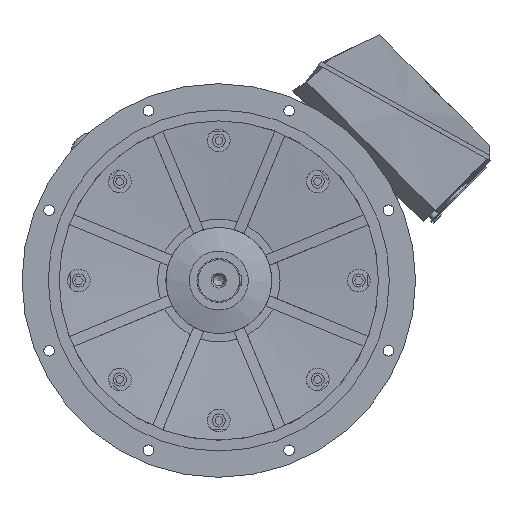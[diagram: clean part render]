
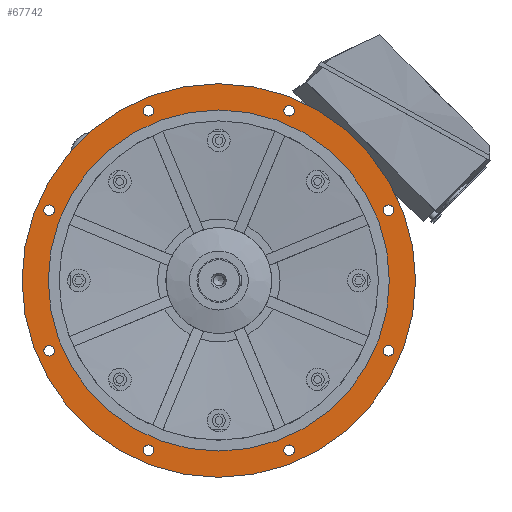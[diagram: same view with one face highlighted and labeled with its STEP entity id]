
A CAD part, left-side view. The second image highlights one B-rep face of the part: STEP entity #67742.
In plain terms, the highlighted planar face has unit normal (-1, 0, 0).
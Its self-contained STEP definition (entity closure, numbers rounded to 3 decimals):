
#3484 = CIRCLE ( 'NONE', #56229, 390. ) ;
#4067 = VERTEX_POINT ( 'NONE', #52187 ) ;
#4650 = DIRECTION ( 'NONE',  ( 1., 0., 0. ) ) ;
#5463 = EDGE_CURVE ( 'NONE', #59065, #59065, #57868, .T. ) ;
#5683 = CIRCLE ( 'NONE', #13074, 450. ) ;
#6493 = CARTESIAN_POINT ( 'NONE',  ( -110., 160.727, 388.029 ) ) ;
#6842 = FACE_BOUND ( 'NONE', #48393, .T. ) ;
#7747 = DIRECTION ( 'NONE',  ( 1., 0., 0. ) ) ;
#8507 = FACE_OUTER_BOUND ( 'NONE', #15671, .T. ) ;
#9044 = CARTESIAN_POINT ( 'NONE',  ( -110., 420., 0. ) ) ;
#9493 = DIRECTION ( 'NONE',  ( 1., 0., 0. ) ) ;
#11773 = EDGE_CURVE ( 'NONE', #13231, #13231, #41516, .T. ) ;
#11813 = ORIENTED_EDGE ( 'NONE', *, *, #22622, .T. ) ;
#11817 = DIRECTION ( 'NONE',  ( 0., 0., -1. ) ) ;
#11992 = AXIS2_PLACEMENT_3D ( 'NONE', #25350, #62642, #30716 ) ;
#13074 = AXIS2_PLACEMENT_3D ( 'NONE', #62194, #30268, #67498 ) ;
#13165 = VERTEX_POINT ( 'NONE', #20575 ) ;
#13231 = VERTEX_POINT ( 'NONE', #40363 ) ;
#13806 = CIRCLE ( 'NONE', #18616, 12. ) ;
#14360 = DIRECTION ( 'NONE',  ( 0., 0., 1. ) ) ;
#14520 = ORIENTED_EDGE ( 'NONE', *, *, #5463, .T. ) ;
#14630 = ORIENTED_EDGE ( 'NONE', *, *, #48477, .T. ) ;
#14991 = ORIENTED_EDGE ( 'NONE', *, *, #68871, .T. ) ;
#15030 = ORIENTED_EDGE ( 'NONE', *, *, #26359, .T. ) ;
#15671 = EDGE_LOOP ( 'NONE', ( #63406 ) ) ;
#16738 = CARTESIAN_POINT ( 'NONE',  ( -110., 388.029, 160.727 ) ) ;
#17056 = ORIENTED_EDGE ( 'NONE', *, *, #32306, .T. ) ;
#18616 = AXIS2_PLACEMENT_3D ( 'NONE', #41331, #9493, #46667 ) ;
#19403 = CIRCLE ( 'NONE', #11992, 12. ) ;
#20569 = AXIS2_PLACEMENT_3D ( 'NONE', #39592, #7747, #44898 ) ;
#20573 = DIRECTION ( 'NONE',  ( 1., 0., 0. ) ) ;
#20575 = CARTESIAN_POINT ( 'NONE',  ( -110., 160.727, 376.029 ) ) ;
#20699 = VERTEX_POINT ( 'NONE', #56681 ) ;
#20956 = FACE_BOUND ( 'NONE', #67453, .T. ) ;
#21055 = CARTESIAN_POINT ( 'NONE',  ( -110., -160.727, -388.029 ) ) ;
#21501 = VERTEX_POINT ( 'NONE', #57366 ) ;
#22081 = DIRECTION ( 'NONE',  ( 0., 0., -1. ) ) ;
#22622 = EDGE_CURVE ( 'NONE', #20699, #20699, #3484, .T. ) ;
#22631 = FACE_BOUND ( 'NONE', #65193, .T. ) ;
#24462 = AXIS2_PLACEMENT_3D ( 'NONE', #6493, #43640, #11817 ) ;
#24605 = EDGE_LOOP ( 'NONE', ( #14630 ) ) ;
#25013 = CARTESIAN_POINT ( 'NONE',  ( -110., 160.727, -400.029 ) ) ;
#25350 = CARTESIAN_POINT ( 'NONE',  ( -110., -388.029, -160.727 ) ) ;
#26359 = EDGE_CURVE ( 'NONE', #47303, #47303, #57958, .T. ) ;
#26384 = DIRECTION ( 'NONE',  ( 0., 0., -1. ) ) ;
#27233 = DIRECTION ( 'NONE',  ( 1., 0., 0. ) ) ;
#28823 = EDGE_LOOP ( 'NONE', ( #15030 ) ) ;
#29834 = VERTEX_POINT ( 'NONE', #25013 ) ;
#30139 = CARTESIAN_POINT ( 'NONE',  ( -110., 388.029, -172.727 ) ) ;
#30144 = EDGE_LOOP ( 'NONE', ( #14991 ) ) ;
#30268 = DIRECTION ( 'NONE',  ( 1., 0., 0. ) ) ;
#30716 = DIRECTION ( 'NONE',  ( 0., 0., -1. ) ) ;
#31246 = EDGE_LOOP ( 'NONE', ( #52606 ) ) ;
#32212 = AXIS2_PLACEMENT_3D ( 'NONE', #21055, #58310, #26384 ) ;
#32306 = EDGE_CURVE ( 'NONE', #29834, #29834, #13806, .T. ) ;
#33259 = CIRCLE ( 'NONE', #24462, 12. ) ;
#35114 = FACE_BOUND ( 'NONE', #28823, .T. ) ;
#36412 = CARTESIAN_POINT ( 'NONE',  ( -110., 388.029, 148.727 ) ) ;
#36490 = CARTESIAN_POINT ( 'NONE',  ( -110., 388.029, -160.727 ) ) ;
#37318 = VERTEX_POINT ( 'NONE', #41289 ) ;
#39592 = CARTESIAN_POINT ( 'NONE',  ( -110., -160.727, 388.029 ) ) ;
#40137 = CARTESIAN_POINT ( 'NONE',  ( -110., -160.727, 376.029 ) ) ;
#40363 = CARTESIAN_POINT ( 'NONE',  ( -110., -160.727, -400.029 ) ) ;
#41289 = CARTESIAN_POINT ( 'NONE',  ( -110., -388.029, -172.727 ) ) ;
#41331 = CARTESIAN_POINT ( 'NONE',  ( -110., 160.727, -388.029 ) ) ;
#41516 = CIRCLE ( 'NONE', #32212, 12. ) ;
#41825 = DIRECTION ( 'NONE',  ( 0., 0., -1. ) ) ;
#42252 = AXIS2_PLACEMENT_3D ( 'NONE', #36490, #4650, #41825 ) ;
#43100 = VERTEX_POINT ( 'NONE', #36412 ) ;
#43640 = DIRECTION ( 'NONE',  ( 1., 0., 0. ) ) ;
#44898 = DIRECTION ( 'NONE',  ( 0., 0., -1. ) ) ;
#46197 = DIRECTION ( 'NONE',  ( -1., 0., 0. ) ) ;
#46667 = DIRECTION ( 'NONE',  ( 0., 0., -1. ) ) ;
#47303 = VERTEX_POINT ( 'NONE', #30139 ) ;
#47564 = FACE_BOUND ( 'NONE', #31246, .T. ) ;
#48393 = EDGE_LOOP ( 'NONE', ( #56136 ) ) ;
#48477 = EDGE_CURVE ( 'NONE', #37318, #37318, #19403, .T. ) ;
#49215 = FACE_BOUND ( 'NONE', #54999, .T. ) ;
#50849 = AXIS2_PLACEMENT_3D ( 'NONE', #16738, #53932, #22081 ) ;
#50887 = FACE_BOUND ( 'NONE', #66318, .T. ) ;
#50979 = CIRCLE ( 'NONE', #50849, 12. ) ;
#52187 = CARTESIAN_POINT ( 'NONE',  ( -110., 0., 450. ) ) ;
#52424 = CARTESIAN_POINT ( 'NONE',  ( -110., 0., 0. ) ) ;
#52606 = ORIENTED_EDGE ( 'NONE', *, *, #54007, .T. ) ;
#52717 = CIRCLE ( 'NONE', #68404, 12. ) ;
#53820 = AXIS2_PLACEMENT_3D ( 'NONE', #9044, #46197, #14360 ) ;
#53932 = DIRECTION ( 'NONE',  ( 1., 0., 0. ) ) ;
#54007 = EDGE_CURVE ( 'NONE', #21501, #21501, #52717, .T. ) ;
#54999 = EDGE_LOOP ( 'NONE', ( #62244 ) ) ;
#55774 = PLANE ( 'NONE',  #53820 ) ;
#56136 = ORIENTED_EDGE ( 'NONE', *, *, #11773, .T. ) ;
#56229 = AXIS2_PLACEMENT_3D ( 'NONE', #52424, #20573, #57829 ) ;
#56681 = CARTESIAN_POINT ( 'NONE',  ( -110., 0., 390. ) ) ;
#57366 = CARTESIAN_POINT ( 'NONE',  ( -110., -388.029, 148.727 ) ) ;
#57829 = DIRECTION ( 'NONE',  ( 0., 0., 1. ) ) ;
#57868 = CIRCLE ( 'NONE', #20569, 12. ) ;
#57958 = CIRCLE ( 'NONE', #42252, 12. ) ;
#58310 = DIRECTION ( 'NONE',  ( 1., 0., 0. ) ) ;
#59065 = VERTEX_POINT ( 'NONE', #40137 ) ;
#59192 = CARTESIAN_POINT ( 'NONE',  ( -110., -388.029, 160.727 ) ) ;
#59349 = EDGE_CURVE ( 'NONE', #4067, #4067, #5683, .T. ) ;
#61790 = FACE_BOUND ( 'NONE', #24605, .T. ) ;
#62194 = CARTESIAN_POINT ( 'NONE',  ( -110., 0., 0. ) ) ;
#62244 = ORIENTED_EDGE ( 'NONE', *, *, #64133, .T. ) ;
#62642 = DIRECTION ( 'NONE',  ( 1., 0., 0. ) ) ;
#63406 = ORIENTED_EDGE ( 'NONE', *, *, #59349, .F. ) ;
#63468 = FACE_BOUND ( 'NONE', #30144, .T. ) ;
#64133 = EDGE_CURVE ( 'NONE', #43100, #43100, #50979, .T. ) ;
#64519 = DIRECTION ( 'NONE',  ( 0., 0., -1. ) ) ;
#65193 = EDGE_LOOP ( 'NONE', ( #14520 ) ) ;
#66318 = EDGE_LOOP ( 'NONE', ( #11813 ) ) ;
#67453 = EDGE_LOOP ( 'NONE', ( #17056 ) ) ;
#67498 = DIRECTION ( 'NONE',  ( 0., 0., 1. ) ) ;
#67742 = ADVANCED_FACE ( 'NONE', ( #50887, #8507, #22631, #63468, #49215, #35114, #20956, #6842, #61790, #47564 ), #55774, .T. ) ;
#68404 = AXIS2_PLACEMENT_3D ( 'NONE', #59192, #27233, #64519 ) ;
#68871 = EDGE_CURVE ( 'NONE', #13165, #13165, #33259, .T. ) ;
